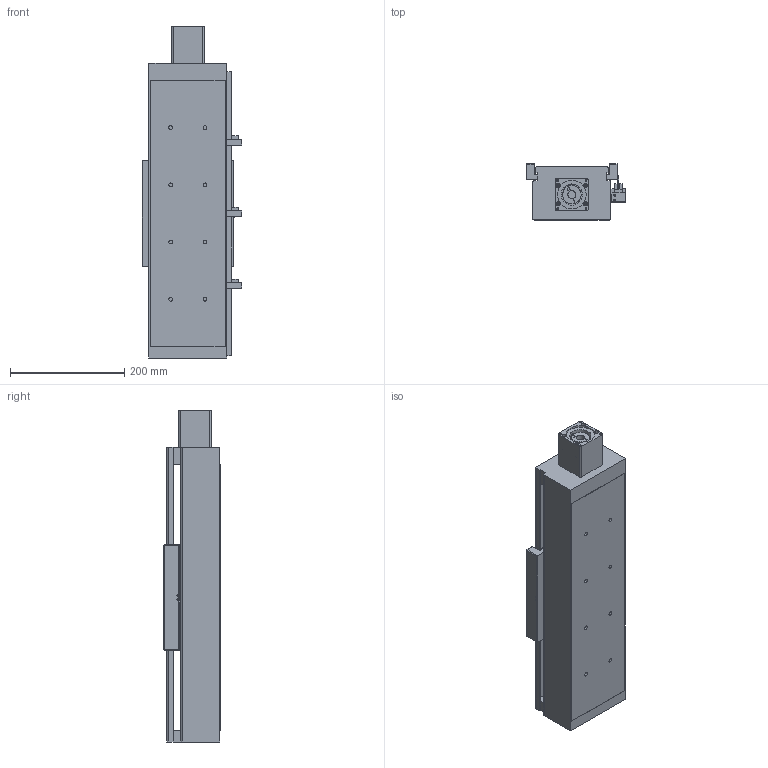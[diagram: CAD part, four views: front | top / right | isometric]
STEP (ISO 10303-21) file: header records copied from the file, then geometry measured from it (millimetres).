
FILE_DESCRIPTION((''),'2;1');
FILE_NAME('E:\libraries\UIA actuator library 2009\standard actuator\UIA136 ball screw 25\UIA136R15NDC-_ _ _-R25_ _, stp file 27Apr16\UIA136R15NDC-250-R25_ _-M60-P13-C10-S.stp','2016-04-28T10:29:48',('h029'),(''),'Autodesk Inventor 11','Autodesk Inventor 11','');
FILE_SCHEMA(('AUTOMOTIVE_DESIGN { 1 0 10303 214 1 1 1 1 }'));
Length unit declared in the file: millimetre
Products named in the file (10): UIA136R15NDC-250; UIA136R15NDC-body; motor mount F60; SOH-32C; SOH-32C-3; SOH-32C-1; SOH-32C-2; Carriage; Sensor Switch; sensor rail
Assembly tree (9 placements, depth 3):
  UIA136R15NDC-250
    UIA136R15NDC-body
    motor mount F60
    SOH-32C
      SOH-32C-3
      SOH-32C-1
      SOH-32C-2
    Carriage
    Sensor Switch
    sensor rail
Bounding box: 174.5 x 98 x 580 mm (x, y, z)
Volume: 2623068.8 mm3; surface area: 655529.5 mm2
Topology: 8 solids, 8 shells, 480 faces, 1283 edges, 838 vertices
Faces by surface type: plane 322, bspline 110, cylinder 44, cone 4
Full cylindrical faces by diameter (mm): 2.459 x2, 3.242 x2, 4.5 x2, 7 x4, 7.5 x2, 14 x3, 17 x1, 32 x3, 37 x1, 50.3 x1, 50.5 x1
Entity records: 15644 total; most frequent: CARTESIAN_POINT 4316, ORIENTED_EDGE 2208, DIRECTION 2162, EDGE_CURVE 1104, VECTOR 808, LINE 808, VERTEX_POINT 774, EDGE_LOOP 684
